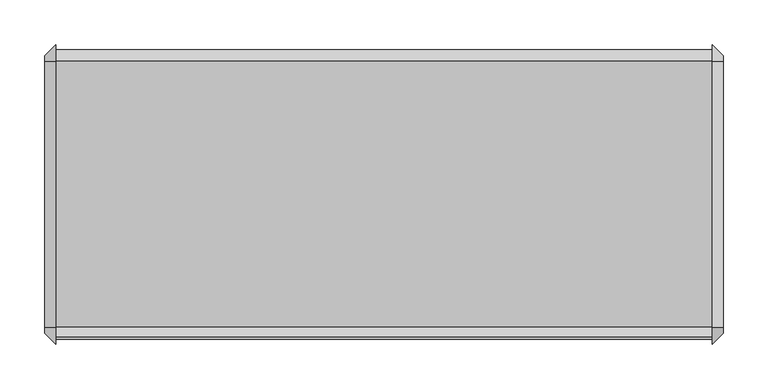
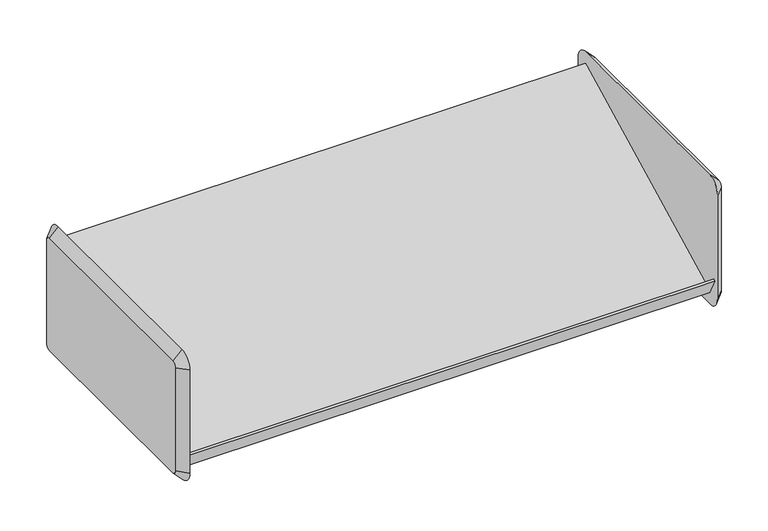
"""IFC4 building model written with IfcOpenShell, lengths in millimetres: furniture geometry."""

from ifc_helpers import new_model, si_unit, frame, origin, place, context, project, spatial, polyline, circle_curve, outline, extrude, source, transform, mapped, element, save
from ifc_brep_helpers import plane_surface, revolved_surface, advanced_brep


def furniture_14ad5853(model_context):
    return source(origin(), model_context, "Body", "SolidModel", [
        advanced_brep(
        [(257.0579955, 161.925, 1511.3), (257.0579955, -136.525, 1511.3), (257.0579955, -142.875, 1504.95), (257.0579955, -142.875, 1352.55), (257.0579955, -136.525, 1346.2), (257.0579955, 161.925, 1346.2), (257.0579955, 168.275, 1352.55), (257.0579955, 168.275, 1504.95), (244.3579955, 161.925, 1524.0), (244.3579955, 180.975, 1504.95), (244.3579955, 180.975, 1352.55), (244.3579955, 161.925, 1333.5), (244.3579955, -136.525, 1333.5), (244.3579955, -155.575, 1352.55), (244.3579955, -155.575, 1504.95), (244.3579955, -136.525, 1524.0)],
        [
            (0, 1),
            (1, 2, circle_curve(frame((257.0579955, -136.525, 1504.95), z_axis=(1.0, 2.0756729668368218e-12, -2.1529444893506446e-12), x_axis=(2.15291077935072e-12, 0.0, 1.0)), 6.35)),
            (2, 3),
            (3, 4, circle_curve(frame((257.0579955, -136.525, 1352.55), z_axis=(1.0, 2.0596857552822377e-12, 2.06767936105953e-12), x_axis=(2.059647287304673e-12, -1.0, 0.0)), 6.35)),
            (4, 5),
            (5, 6, circle_curve(frame((257.0579955, 161.925, 1352.55), z_axis=(1.0, 2.0889956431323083e-12, -2.0889956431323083e-12), x_axis=(-2.0890080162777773e-12, 0.0, -1.0)), 6.35)),
            (6, 7),
            (7, 0, circle_curve(frame((257.0579955, 161.925, 1504.95), z_axis=(1.0, 2.0783375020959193e-12, 2.003730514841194e-12), x_axis=(-2.0783313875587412e-12, 1.0, 0.0)), 6.35)),
            (8, 9, circle_curve(frame((244.3579955, 161.925, 1504.95), z_axis=(-1.0, -2.0783375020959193e-12, -2.003730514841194e-12), x_axis=(-2.0783313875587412e-12, 1.0, 0.0)), 19.05)),
            (9, 10),
            (10, 11, circle_curve(frame((244.3579955, 161.925, 1352.55), z_axis=(-1.0, -2.0889956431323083e-12, 2.0889956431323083e-12), x_axis=(-2.0890080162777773e-12, 0.0, -1.0)), 19.05)),
            (11, 12),
            (12, 13, circle_curve(frame((244.3579955, -136.525, 1352.55), z_axis=(-1.0, -2.0596857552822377e-12, -2.06767936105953e-12), x_axis=(2.059647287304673e-12, -1.0, 0.0)), 19.05)),
            (13, 14),
            (14, 15, circle_curve(frame((244.3579955, -136.525, 1504.95), z_axis=(-1.0, -2.0756729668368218e-12, 2.1529444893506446e-12), x_axis=(2.15291077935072e-12, 0.0, 1.0)), 19.05)),
            (15, 8),
            (15, 1),
            (0, 8),
            (14, 2),
            (13, 3),
            (12, 4),
            (11, 5),
            (10, 6),
            (9, 7),
        ],
        [
            plane_surface(frame((257.0579955, 12.7, 1428.75), z_axis=(1.0, 0.0, 0.0), x_axis=(0.0, -1.0, 0.0))),
            plane_surface(frame((244.3579955, 12.7, 1428.75), z_axis=(-1.0, 0.0, 0.0), x_axis=(0.0, -1.0, 0.0))),
            plane_surface(frame((244.3579955, 12.7, 1524.0), z_axis=(0.7071067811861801, 0.0, 0.707106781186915), x_axis=(0.0, -1.0, 0.0))),
            revolved_surface(polyline([(257.0579955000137, -136.525, 1511.2999999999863), (244.3579955, -136.525, 1524.0)]), (263.4079955, -136.525, 1504.95), (-1.0, -2.0756729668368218e-12, 2.1529444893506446e-12)),
            plane_surface(frame((244.3579955, -155.575, 1428.75), z_axis=(0.7071067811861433, -0.7071067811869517, 0.0), x_axis=(0.0, 0.0, -1.0))),
            revolved_surface(polyline([(257.0579955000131, -142.87499999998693, 1352.55), (244.35799549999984, -155.57500000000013, 1352.55)]), (263.4079955, -136.525, 1352.55), (-1.0, -2.0596857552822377e-12, -2.06767936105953e-12)),
            plane_surface(frame((244.3579955, 12.7, 1333.5), z_axis=(0.7071067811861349, 0.0, -0.7071067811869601), x_axis=(0.0, 1.0, 0.0))),
            revolved_surface(polyline([(257.0579955, 161.925, 1346.2), (244.3579954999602, 161.925, 1333.4999999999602)]), (263.4079955, 161.925, 1352.55), (-1.0, -2.0889956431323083e-12, 2.0889956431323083e-12)),
            plane_surface(frame((244.3579955, 180.975, 1428.75), z_axis=(0.7071067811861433, 0.7071067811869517, 0.0), x_axis=(0.0, 0.0, 1.0))),
            revolved_surface(polyline([(257.0579955, 168.275, 1504.95), (244.3579954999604, 180.97500000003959, 1504.95)]), (263.4079955, 161.925, 1504.95), (-1.0, -2.0783375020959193e-12, -2.003730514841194e-12)),
        ],
        [
            (0, [[1, 2, 3, 4, 5, 6, 7, 8]]),
            (1, [[9, 10, 11, 12, 13, 14, 15, 16]]),
            (2, [[-16, 17, -1, 18]]),
            (3, [[-15, 19, -2, -17]]),
            (4, [[-14, 20, -3, -19]]),
            (5, [[-13, 21, -4, -20]]),
            (6, [[-12, 22, -5, -21]]),
            (7, [[-11, 23, -6, -22]]),
            (8, [[-10, 24, -7, -23]]),
            (9, [[-9, -18, -8, -24]]),
        ],
    ),
        advanced_brep(
        [(-504.9420045, -136.525, 1511.3), (-504.9420045, 161.925, 1511.3), (-504.9420045, 168.275, 1504.95), (-504.9420045, 168.275, 1352.55), (-504.9420045, 161.925, 1346.2), (-504.9420045, -136.525, 1346.2), (-504.9420045, -142.875, 1352.55), (-504.9420045, -142.875, 1504.95), (-492.2420045, -136.525, 1524.0), (-492.2420045, -155.575, 1504.95), (-492.2420045, -155.575, 1352.55), (-492.2420045, -136.525, 1333.5), (-492.2420045, 161.925, 1333.5), (-492.2420045, 180.975, 1352.55), (-492.2420045, 180.975, 1504.95), (-492.2420045, 161.925, 1524.0)],
        [
            (0, 1),
            (1, 2, circle_curve(frame((-504.9420045, 161.925, 1504.95), z_axis=(-1.0, 0.0, 0.0), x_axis=(0.0, 0.0, 1.0)), 6.35)),
            (2, 3),
            (3, 4, circle_curve(frame((-504.9420045, 161.925, 1352.55), z_axis=(-1.0, 0.0, 0.0), x_axis=(0.0, 1.0, 0.0)), 6.35)),
            (4, 5),
            (5, 6, circle_curve(frame((-504.9420045, -136.525, 1352.55), z_axis=(-1.0, 0.0, 0.0), x_axis=(0.0, 0.0, -1.0)), 6.35)),
            (6, 7),
            (7, 0, circle_curve(frame((-504.9420045, -136.525, 1504.95), z_axis=(-1.0, 0.0, 0.0), x_axis=(0.0, -1.0, 0.0)), 6.35)),
            (8, 9, circle_curve(frame((-492.2420045, -136.525, 1504.95), z_axis=(1.0, 0.0, 0.0), x_axis=(0.0, -1.0, 0.0)), 19.05)),
            (9, 10),
            (10, 11, circle_curve(frame((-492.2420045, -136.525, 1352.55), z_axis=(1.0, 0.0, 0.0), x_axis=(0.0, 0.0, -1.0)), 19.05)),
            (11, 12),
            (12, 13, circle_curve(frame((-492.2420045, 161.925, 1352.55), z_axis=(1.0, 0.0, 0.0), x_axis=(0.0, 1.0, 0.0)), 19.05)),
            (13, 14),
            (14, 15, circle_curve(frame((-492.2420045, 161.925, 1504.95), z_axis=(1.0, 0.0, 0.0), x_axis=(0.0, 0.0, 1.0)), 19.05)),
            (15, 8),
            (15, 1),
            (0, 8),
            (14, 2),
            (13, 3),
            (12, 4),
            (11, 5),
            (10, 6),
            (9, 7),
        ],
        [
            plane_surface(frame((-504.9420045, 12.7, 1428.75), z_axis=(-1.0, 0.0, 0.0), x_axis=(0.0, -1.0, 0.0))),
            plane_surface(frame((-492.2420045, 12.7, 1428.75), z_axis=(1.0, 0.0, 0.0), x_axis=(0.0, -1.0, 0.0))),
            plane_surface(frame((-492.2420045, 12.7, 1524.0), z_axis=(-0.7071067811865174, 0.0, 0.7071067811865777), x_axis=(0.0, 1.0, 0.0))),
            revolved_surface(polyline([(-504.9420045, 161.925, 1511.3), (-492.2420045, 161.925, 1524.0)]), (-511.2920045, 161.925, 1504.95), (1.0, 0.0, 0.0)),
            plane_surface(frame((-492.2420045, 180.975, 1428.75), z_axis=(-0.7071067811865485, 0.7071067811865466, 0.0), x_axis=(0.0, 0.0, -1.0))),
            revolved_surface(polyline([(-504.9420045, 168.27500000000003, 1352.55), (-492.2420045, 180.975, 1352.55)]), (-511.2920045, 161.925, 1352.55), (1.0, 0.0, 0.0)),
            plane_surface(frame((-492.2420045, 12.7, 1333.5), z_axis=(-0.7071067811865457, 0.0, -0.7071067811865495), x_axis=(0.0, -1.0, 0.0))),
            revolved_surface(polyline([(-504.9420045, -136.525, 1346.2), (-492.2420045, -136.525, 1333.5)]), (-511.2920045, -136.525, 1352.55), (1.0, 0.0, 0.0)),
            plane_surface(frame((-492.2420045, -155.575, 1428.75), z_axis=(-0.7071067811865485, -0.7071067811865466, 0.0), x_axis=(0.0, 0.0, 1.0))),
            revolved_surface(polyline([(-504.9420045, -142.87500000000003, 1504.95), (-492.2420045, -155.575, 1504.95)]), (-511.2920045, -136.525, 1504.95), (1.0, 0.0, 0.0)),
        ],
        [
            (0, [[1, 2, 3, 4, 5, 6, 7, 8]]),
            (1, [[9, 10, 11, 12, 13, 14, 15, 16]]),
            (2, [[-16, 17, -1, 18]]),
            (3, [[-15, 19, -2, -17]]),
            (4, [[-14, 20, -3, -19]]),
            (5, [[-13, 21, -4, -20]]),
            (6, [[-12, 22, -5, -21]]),
            (7, [[-11, 23, -6, -22]]),
            (8, [[-10, 24, -7, -23]]),
            (9, [[-9, -18, -8, -24]]),
        ],
    ),
        extrude(outline(polyline([(-137.2094993, 1350.4179666), (-149.845093, 1374.8467844), (-147.0173828, 1376.2907216), (-135.8404765, 1354.6820334), (162.5893131, 1507.0717194), (175.2453599, 1483.4470972), (172.4171401, 1482.0028998), (161.2606869, 1502.8282806), (-137.2094993, 1350.4179666)])), frame((-492.2420045, 0.0, 0.0), z_axis=(1.0, 0.0, 0.0), x_axis=(0.0, 1.0, 0.0)), (0.0, 0.0, 1.0), 736.6),
    ])


if __name__ == "__main__":
    model = new_model("IFC4")
    model_context = context("Model", 3, world=origin())
    ifc_project = project(units=[si_unit("LENGTHUNIT", "METRE", prefix="MILLI")], contexts=[model_context])
    site = spatial("IfcSite", under=ifc_project)
    building = spatial("IfcBuilding", under=site)
    placement = place(None, origin())
    furniture_shape = furniture_14ad5853(model_context)
    element("IfcFurniture", 1, ObjectType="HermanMiller_ActionOffice_A3220_B-StyleStorageDisplay : Display 13\"D x 30\"W", at=placement, inside=building, context=model_context, shape_type="MappedRepresentation", body=[
        mapped(furniture_shape, transform((0.0, 0.0, 0.0), x_axis=(1.0, 0.0, 0.0), y_axis=(0.0, 1.0, 0.0), z_axis=(0.0, 0.0, 1.0))),
    ])
    save(model, "model.ifc")
